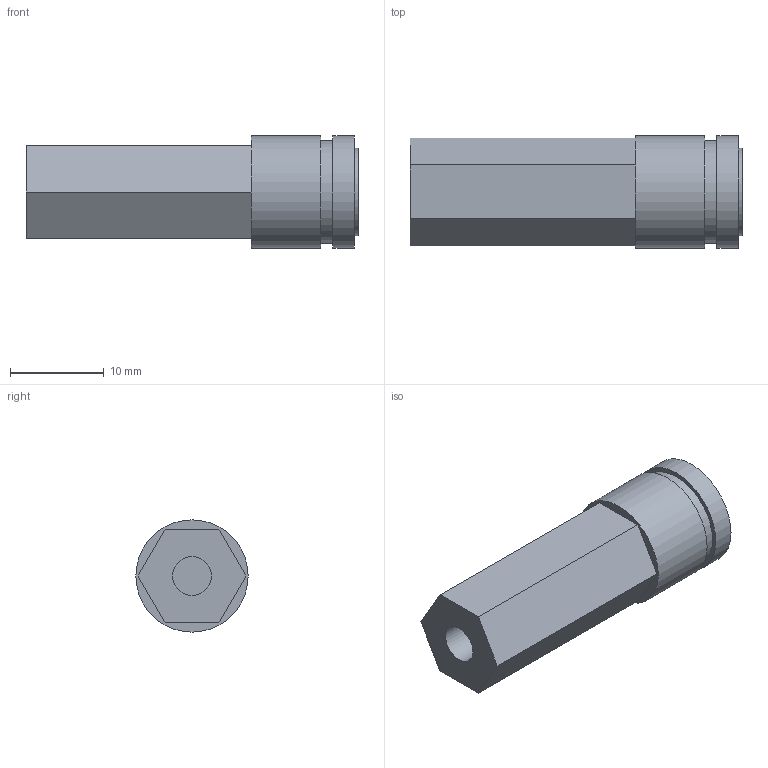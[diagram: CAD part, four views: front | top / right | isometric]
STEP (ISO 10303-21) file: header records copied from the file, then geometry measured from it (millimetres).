
FILE_DESCRIPTION((''),'2;1');
FILE_NAME('\\Sv02\data\客先\あ行\アオイ\99_その他\3D_DATA\CPR_Series\1CPR-SSV-M5c\STEP\203\CPR-SSV-M5c.ipt.stp','2008-07-01T10:21:54',(''),(''),'Autodesk Inventor 2009','Autodesk Inventor 2009','');
FILE_SCHEMA(('CONFIG_CONTROL_DESIGN'));
Length unit declared in the file: millimetre
Products named in the file (1): CPR-SSV-M5c
Bounding box: 35.5 x 12 x 12 mm (x, y, z)
Volume: 2731.4 mm3; surface area: 1917.7 mm2
Topology: 1 solids, 1 shells, 20 faces, 36 edges, 24 vertices
Faces by surface type: plane 12, bspline 4, cylinder 4
Full cylindrical faces by diameter (mm): 9.4 x1, 11 x1, 12 x2
Entity records: 505 total; most frequent: CARTESIAN_POINT 115, DIRECTION 76, ORIENTED_EDGE 60, EDGE_LOOP 32, EDGE_CURVE 30, AXIS2_PLACEMENT_3D 29, VERTEX_POINT 24, FACE_OUTER_BOUND 20
